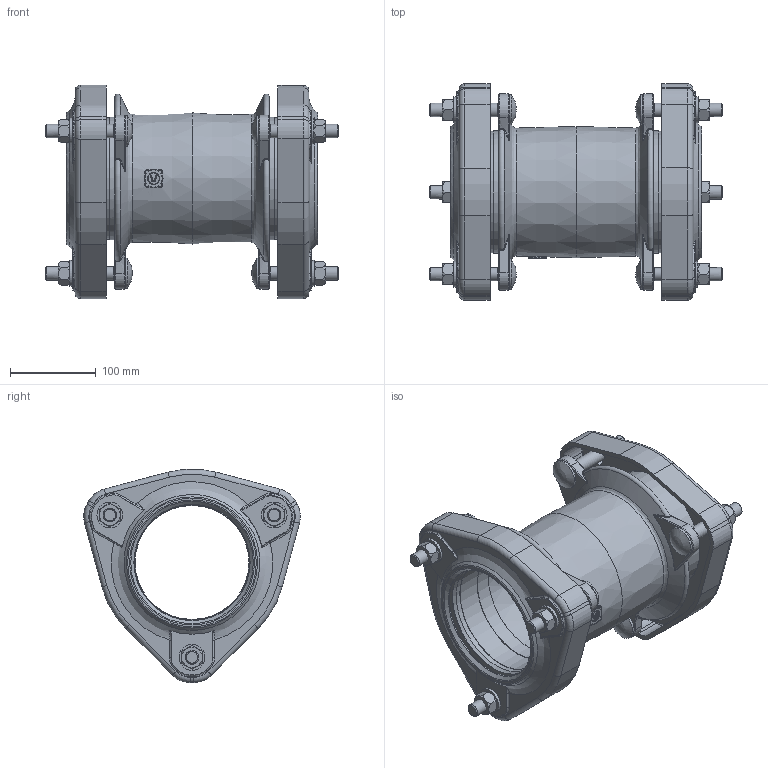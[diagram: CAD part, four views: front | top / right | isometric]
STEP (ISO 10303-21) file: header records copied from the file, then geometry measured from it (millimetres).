
FILE_DESCRIPTION((''),'2;1');
FILE_NAME('P:\Fastrack\54361_VIKING JOHNSON 3D\ULTRAGRIP\Component Parts\Components Built up\Coupling Assembly\NEW 100MM\100MM-UltraGrip-Coupling-Assembly.stp','2012-06-27T10:44:26',('dcole'),(''),'Autodesk Inventor 2008','Autodesk Inventor 2008','');
FILE_SCHEMA(('AUTOMOTIVE_DESIGN { 1 0 10303 214 1 1 1 1 }'));
Length unit declared in the file: millimetre
Products named in the file (1): 100MM-UltraGrip-Coupling-Assembly
Bounding box: 342 x 252.18 x 248.26 mm (x, y, z)
Volume: 1797259.4 mm3; surface area: 601800.3 mm2
Topology: 1 solids, 1 shells, 954 faces, 2400 edges, 1480 vertices
Faces by surface type: cylinder 315, plane 295, bspline 154, cone 103, torus 87
Full cylindrical faces by diameter (mm): 13 x1, 15.7 x12, 16 x6, 30 x6, 35.2 x6, 132.7 x2, 133.7 x2, 134.7 x2, 141.7 x2, 142.7 x2
Entity records: 41660 total; most frequent: CARTESIAN_POINT 19462, ORIENTED_EDGE 4470, DIRECTION 4331, EDGE_CURVE 2235, AXIS2_PLACEMENT_3D 1742, VERTEX_POINT 1427, EDGE_LOOP 1104, STYLED_ITEM 951
